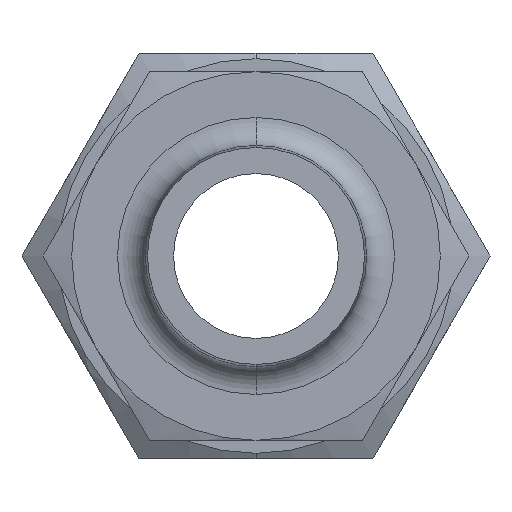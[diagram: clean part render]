
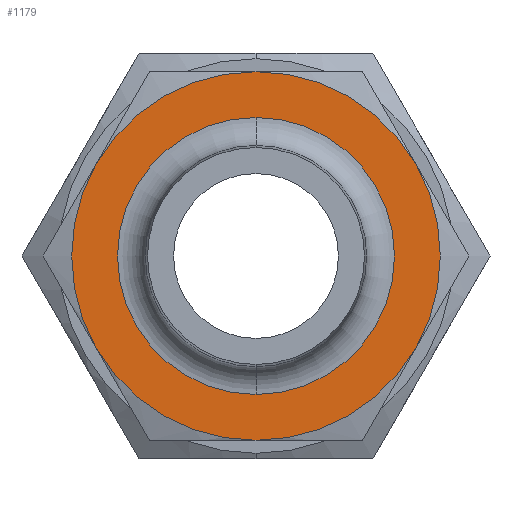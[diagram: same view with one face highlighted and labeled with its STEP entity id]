
A CAD part, left-side view. The second image highlights one B-rep face of the part: STEP entity #1179.
In plain terms, the highlighted planar face has unit normal (-1, 0, 0).
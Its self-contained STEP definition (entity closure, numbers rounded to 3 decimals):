
#47 = CARTESIAN_POINT ( 'NONE',  ( 0., 0., -5.965 ) ) ;
#48 = CARTESIAN_POINT ( 'NONE',  ( 0., 0., 5.965 ) ) ;
#49 = DIRECTION ( 'NONE',  ( 0., 0., -1. ) ) ;
#50 = DIRECTION ( 'NONE',  ( 1., 0., 0. ) ) ;
#185 = CARTESIAN_POINT ( 'NONE',  ( 0., 0., 0. ) ) ;
#186 = AXIS2_PLACEMENT_3D ( 'NONE', #185, #50, #49 ) ;
#191 = CIRCLE ( 'NONE', #186, 5.965 ) ;
#327 = CARTESIAN_POINT ( 'NONE',  ( 0., 6.876, 3.97 ) ) ;
#468 = DIRECTION ( 'NONE',  ( 0., 0., -1. ) ) ;
#469 = DIRECTION ( 'NONE',  ( 1., 0., 0. ) ) ;
#470 = CARTESIAN_POINT ( 'NONE',  ( 0., 0., 0. ) ) ;
#471 = AXIS2_PLACEMENT_3D ( 'NONE', #470, #469, #468 ) ;
#472 = DIRECTION ( 'NONE',  ( 0., 0., -1. ) ) ;
#473 = DIRECTION ( 'NONE',  ( 1., 0., 0. ) ) ;
#474 = CARTESIAN_POINT ( 'NONE',  ( 0., 9.168, 0. ) ) ;
#475 = AXIS2_PLACEMENT_3D ( 'NONE', #474, #473, #472 ) ;
#476 = CIRCLE ( 'NONE', #471, 5.965 ) ;
#481 = CARTESIAN_POINT ( 'NONE',  ( 0., -6.876, -3.97 ) ) ;
#506 = PLANE ( 'NONE',  #475 ) ;
#507 = FACE_OUTER_BOUND ( 'NONE', #1184, .T. ) ;
#509 = FACE_BOUND ( 'NONE', #1180, .T. ) ;
#525 = DIRECTION ( 'NONE',  ( 0., 0., -1. ) ) ;
#526 = DIRECTION ( 'NONE',  ( 1., 0., 0. ) ) ;
#527 = CARTESIAN_POINT ( 'NONE',  ( 0., 0., 0. ) ) ;
#528 = AXIS2_PLACEMENT_3D ( 'NONE', #527, #526, #525 ) ;
#529 = CIRCLE ( 'NONE', #528, 7.94 ) ;
#538 = CIRCLE ( 'NONE', #643, 7.94 ) ;
#539 = DIRECTION ( 'NONE',  ( 0., 0., -1. ) ) ;
#540 = DIRECTION ( 'NONE',  ( 1., 0., 0. ) ) ;
#541 = AXIS2_PLACEMENT_3D ( 'NONE', #547, #540, #539 ) ;
#542 = CIRCLE ( 'NONE', #541, 7.94 ) ;
#543 = DIRECTION ( 'NONE',  ( 0., 0., -1. ) ) ;
#544 = DIRECTION ( 'NONE',  ( 1., 0., 0. ) ) ;
#545 = AXIS2_PLACEMENT_3D ( 'NONE', #573, #544, #543 ) ;
#546 = CIRCLE ( 'NONE', #545, 7.94 ) ;
#547 = CARTESIAN_POINT ( 'NONE',  ( 0., 0., 0. ) ) ;
#573 = CARTESIAN_POINT ( 'NONE',  ( 0., 0., 0. ) ) ;
#583 = CARTESIAN_POINT ( 'NONE',  ( 0., 0., -7.94 ) ) ;
#630 = DIRECTION ( 'NONE',  ( 0., 0., 1. ) ) ;
#631 = DIRECTION ( 'NONE',  ( -1., 0., 0. ) ) ;
#632 = CARTESIAN_POINT ( 'NONE',  ( 0., 0., 0. ) ) ;
#633 = AXIS2_PLACEMENT_3D ( 'NONE', #632, #631, #630 ) ;
#634 = CIRCLE ( 'NONE', #633, 7.94 ) ;
#635 = DIRECTION ( 'NONE',  ( 0., 0., -1. ) ) ;
#636 = DIRECTION ( 'NONE',  ( 1., 0., 0. ) ) ;
#637 = CARTESIAN_POINT ( 'NONE',  ( 0., 0., 0. ) ) ;
#638 = AXIS2_PLACEMENT_3D ( 'NONE', #637, #636, #635 ) ;
#639 = CIRCLE ( 'NONE', #638, 7.94 ) ;
#640 = DIRECTION ( 'NONE',  ( 0., 0., -1. ) ) ;
#641 = DIRECTION ( 'NONE',  ( 1., 0., 0. ) ) ;
#642 = CARTESIAN_POINT ( 'NONE',  ( 0., 0., 0. ) ) ;
#643 = AXIS2_PLACEMENT_3D ( 'NONE', #642, #641, #640 ) ;
#648 = CARTESIAN_POINT ( 'NONE',  ( 0., 0., 7.94 ) ) ;
#1058 = VERTEX_POINT ( 'NONE', #1825 ) ;
#1110 = VERTEX_POINT ( 'NONE', #1758 ) ;
#1122 = VERTEX_POINT ( 'NONE', #648 ) ;
#1142 = VERTEX_POINT ( 'NONE', #583 ) ;
#1154 = VERTEX_POINT ( 'NONE', #481 ) ;
#1161 = EDGE_CURVE ( 'NONE', #1142, #1058, #546, .T. ) ;
#1162 = ORIENTED_EDGE ( 'NONE', *, *, #1163, .F. ) ;
#1163 = EDGE_CURVE ( 'NONE', #1154, #1142, #542, .T. ) ;
#1164 = ORIENTED_EDGE ( 'NONE', *, *, #1165, .F. ) ;
#1165 = EDGE_CURVE ( 'NONE', #1110, #1154, #538, .T. ) ;
#1166 = ORIENTED_EDGE ( 'NONE', *, *, #1167, .F. ) ;
#1167 = EDGE_CURVE ( 'NONE', #1122, #1110, #639, .T. ) ;
#1168 = ORIENTED_EDGE ( 'NONE', *, *, #1169, .T. ) ;
#1169 = EDGE_CURVE ( 'NONE', #1122, #1336, #634, .T. ) ;
#1170 = ORIENTED_EDGE ( 'NONE', *, *, #1171, .F. ) ;
#1171 = EDGE_CURVE ( 'NONE', #1058, #1336, #529, .T. ) ;
#1179 = ADVANCED_FACE ( 'NONE', ( #509, #507 ), #506, .F. ) ;
#1180 = EDGE_LOOP ( 'NONE', ( #1181, #1183 ) ) ;
#1181 = ORIENTED_EDGE ( 'NONE', *, *, #1182, .T. ) ;
#1182 = EDGE_CURVE ( 'NONE', #1285, #1284, #476, .T. ) ;
#1183 = ORIENTED_EDGE ( 'NONE', *, *, #1283, .T. ) ;
#1184 = EDGE_LOOP ( 'NONE', ( #1185, #1162, #1164, #1166, #1168, #1170 ) ) ;
#1185 = ORIENTED_EDGE ( 'NONE', *, *, #1161, .F. ) ;
#1283 = EDGE_CURVE ( 'NONE', #1284, #1285, #191, .T. ) ;
#1284 = VERTEX_POINT ( 'NONE', #48 ) ;
#1285 = VERTEX_POINT ( 'NONE', #47 ) ;
#1336 = VERTEX_POINT ( 'NONE', #327 ) ;
#1758 = CARTESIAN_POINT ( 'NONE',  ( 0., -6.876, 3.97 ) ) ;
#1825 = CARTESIAN_POINT ( 'NONE',  ( 0., 6.876, -3.97 ) ) ;
